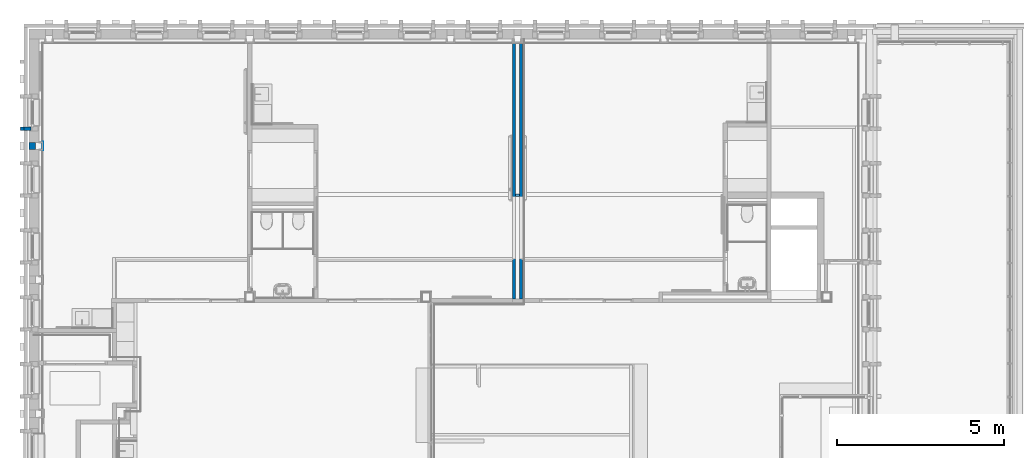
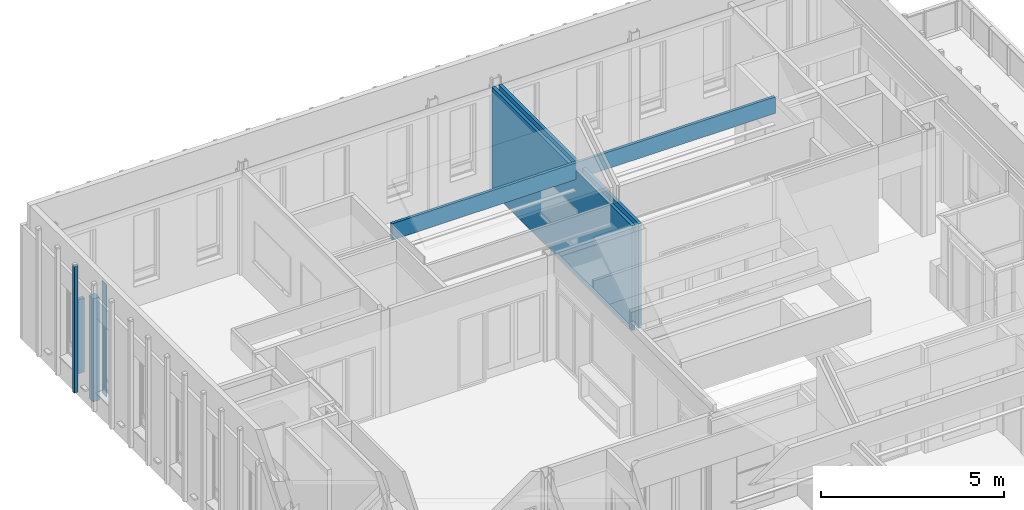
# One storey, part 54 of 118: 7 walls.
"""IFC2X3 building model written with IfcOpenShell, lengths in millimetres."""

import ifcopenshell
import ifcopenshell.guid

model = None  # the IFC model being written
_history = None  # IfcOwnerHistory: only IFC2X3 demands one
_inside = {}  # id of a spatial element -> (the spatial element, [elements in it])
_under = {}  # id of a project, library or spatial element -> (it, [spatial elements below it])
_declared = {}  # id of a project -> (the project, [libraries it declares])
_typed = {}  # id of a type object -> (the type object, [elements of that type])
_made_of = {}  # id of a material, layer set ... -> (it, [elements and type objects made of it])


def new_model(schema):
    """Start an empty IFC model of exactly this schema.

    Asked for "IFC4X3", IfcOpenShell would pick the latest addendum, in which some entities
    have other attributes; the version numbers below select the first issue.
    IFC2X3 requires an IfcOwnerHistory on every rooted entity: one is made here for all.
    """
    global model, _history
    if schema == "IFC4X3":
        model = ifcopenshell.file(schema_version=(4, 3, 0, 0))
    else:
        model = ifcopenshell.file(schema=schema)
    _inside.clear()
    _under.clear()
    _declared.clear()
    _typed.clear()
    _made_of.clear()
    _history = None
    if model.schema == "IFC2X3":
        org = make("IfcOrganization", Name="unknown")
        user = make(
            "IfcPersonAndOrganization",
            ThePerson=make("IfcPerson", FamilyName="unknown"),
            TheOrganization=org,
        )
        app = make(
            "IfcApplication",
            ApplicationDeveloper=org,
            Version="unknown",
            ApplicationFullName="unknown",
            ApplicationIdentifier="unknown",
        )
        _history = make(
            "IfcOwnerHistory",
            OwningUser=user,
            OwningApplication=app,
            ChangeAction="ADDED",
            CreationDate=0,
        )
    return model


def make(cls, **values):
    """One entity of the class cls with the attributes given. An attribute that is None is left unset."""
    return model.create_entity(
        cls, **{name: value for name, value in values.items() if value is not None}
    )


def entity(cls, *values):
    """Any entity or typed value of the class cls, its attributes in the order of the schema. None: left unset."""
    e = model.create_entity(cls)
    for i, value in enumerate(values):
        if value is not None:
            e[i] = value
    return e


def rooted(cls, **values):
    """An entity with a GlobalId (a new one), such as an element, a storey or a relation."""
    return make(cls, GlobalId=ifcopenshell.guid.new(), OwnerHistory=_history, **values)


def si_unit(unit_type, name, prefix=None):
    """IfcSIUnit, for example si_unit("LENGTHUNIT", "METRE", prefix="MILLI")."""
    return make("IfcSIUnit", UnitType=unit_type, Prefix=prefix, Name=name)


def converted_unit(unit_type, name, factor, base, dimensions=None, offset=None):
    """IfcConversionBasedUnit, such as the inch: factor (a typed value) times the base unit."""
    return make(
        "IfcConversionBasedUnit"
        if offset is None
        else "IfcConversionBasedUnitWithOffset",
        ConversionOffset=offset,
        Dimensions=None
        if dimensions is None
        else entity("IfcDimensionalExponents", *dimensions),
        UnitType=unit_type,
        Name=name,
        ConversionFactor=make(
            "IfcMeasureWithUnit", ValueComponent=factor, UnitComponent=base
        ),
    )


def derived_unit(unit_type, elements):
    """IfcDerivedUnit: a product of units, each with its exponent."""
    return make(
        "IfcDerivedUnit",
        Elements=[
            make("IfcDerivedUnitElement", Unit=unit, Exponent=power)
            for unit, power in elements
        ],
        UnitType=unit_type,
    )


def assignment(units):
    """IfcUnitAssignment: the units of a project."""
    return None if units is None else make("IfcUnitAssignment", Units=units)


def point(xyz):
    """IfcCartesianPoint."""
    return None if xyz is None else make("IfcCartesianPoint", Coordinates=xyz)


def direction(xyz):
    """IfcDirection."""
    return None if xyz is None else make("IfcDirection", DirectionRatios=xyz)


def frame(location, z_axis=None, x_axis=None):
    """IfcAxis2Placement3D, a coordinate frame: its origin and axes. An axis left out is left unset."""
    return make(
        "IfcAxis2Placement3D",
        Location=point(location),
        Axis=direction(z_axis),
        RefDirection=direction(x_axis),
    )


def frame_2d(location, x_axis=None):
    """IfcAxis2Placement2D, a coordinate frame in the plane: its origin and x axis."""
    return make(
        "IfcAxis2Placement2D", Location=point(location), RefDirection=direction(x_axis)
    )


def origin():
    """The frame at (0, 0, 0) with its axes left unset."""
    return frame((0.0, 0.0, 0.0))


def place(relative_to, where):
    """IfcLocalPlacement: puts the frame where relative to a parent placement (None: the world)."""
    return make(
        "IfcLocalPlacement", PlacementRelTo=relative_to, RelativePlacement=where
    )


def context(
    kind, dimensions, precision=None, world=None, true_north=None, identifier=None
):
    """IfcGeometricRepresentationContext, for example the 3D "Model" context."""
    return make(
        "IfcGeometricRepresentationContext",
        ContextIdentifier=identifier,
        ContextType=kind,
        CoordinateSpaceDimension=dimensions,
        Precision=precision,
        WorldCoordinateSystem=world,
        TrueNorth=true_north,
    )


def subcontext(parent, identifier, kind, view, scale=None):
    """IfcGeometricRepresentationSubContext, for example "Body" below "Model"."""
    return make(
        "IfcGeometricRepresentationSubContext",
        ContextIdentifier=identifier,
        ContextType=kind,
        ParentContext=parent,
        TargetScale=scale,
        TargetView=view,
    )


def project(units=None, contexts=None):
    """IfcProject with its units and contexts."""
    return rooted(
        "IfcProject",
        Name="project",
        RepresentationContexts=contexts,
        UnitsInContext=assignment(units),
    )


def spatial(cls, under=None, at=None, **own):
    """A site, building, storey or space (cls), placed at a placement, below another one or the project."""
    s = rooted(cls, ObjectPlacement=at, **own)
    if under is not None:
        _under.setdefault(under.id(), (under, []))[1].append(s)
    return s


def polyline(points):
    """IfcPolyline through the points."""
    return make("IfcPolyline", Points=[point(p) for p in points])


def profile(cls, at=None, kind="AREA", **sizes):
    """A parametric profile (cls). Its sizes go by their IFC names, for example OverallWidth=200.0."""
    return make(cls, ProfileType=kind, Position=at, **sizes)


def rectangle(**sizes):
    """IfcRectangleProfileDef."""
    return profile("IfcRectangleProfileDef", **sizes)


def extrude(swept, where, along, depth):
    """IfcExtrudedAreaSolid: the profile swept, set in the frame where, extruded along a direction by depth."""
    return make(
        "IfcExtrudedAreaSolid",
        SweptArea=swept,
        Position=where,
        ExtrudedDirection=direction(along),
        Depth=depth,
    )


def clip(a, b, op="DIFFERENCE"):
    """IfcBooleanClippingResult: the solid a cut by the half space b."""
    return make(
        "IfcBooleanClippingResult", Operator=op, FirstOperand=a, SecondOperand=b
    )


def bounded_halfspace(plane, agree, where, boundary):
    """IfcPolygonalBoundedHalfSpace: a half space limited to a polygon's prism."""
    return make(
        "IfcPolygonalBoundedHalfSpace",
        BaseSurface=make("IfcPlane", Position=plane),
        AgreementFlag=agree,
        Position=where,
        PolygonalBoundary=boundary,
    )


def shape(context_of_items, identifier, shape_type, items):
    """IfcShapeRepresentation: the items that make up one representation, for example the "Body"."""
    return make(
        "IfcShapeRepresentation",
        ContextOfItems=context_of_items,
        RepresentationIdentifier=identifier,
        RepresentationType=shape_type,
        Items=items,
    )


def material(Name=None, Category=None):
    """IfcMaterial."""
    return make("IfcMaterial", Name=Name, Category=Category)


def layer(
    of_material, thickness, ventilated=None, Name=None, Category=None, Priority=None
):
    """IfcMaterialLayer: one layer of a wall or slab, of a material (None: an air gap)."""
    return make(
        "IfcMaterialLayer",
        Material=of_material,
        LayerThickness=thickness,
        IsVentilated=ventilated,
        Name=Name,
        Category=Category,
        Priority=Priority,
    )


def layer_set(layers, Name=None):
    """IfcMaterialLayerSet."""
    return make("IfcMaterialLayerSet", MaterialLayers=layers, LayerSetName=Name)


def layer_usage(for_layer_set, set_direction, sense, offset, extent=None):
    """IfcMaterialLayerSetUsage: how a layer set lies in its element."""
    return make(
        "IfcMaterialLayerSetUsage",
        ForLayerSet=for_layer_set,
        LayerSetDirection=set_direction,
        DirectionSense=sense,
        OffsetFromReferenceLine=offset,
        ReferenceExtent=extent,
    )


def made_of(thing, what):
    """Note that an element or type object is made of a material, layer set ...; save() writes the relation."""
    if what is not None:
        _made_of.setdefault(what.id(), (what, []))[1].append(thing)
    return thing


def type_object(cls, material=None, **own):
    """A type object (cls), such as IfcWallType, which elements share."""
    return made_of(rooted(cls, **own), material)


def element(
    cls,
    number,
    at=None,
    inside=None,
    cuts=None,
    type_object=None,
    material=None,
    context=None,
    identifier="Body",
    shape_type=None,
    held_by="IfcProductDefinitionShape",
    body=None,
    shapes=None,
    **own,
):
    """One element of the class cls, such as IfcWall. Its Tag is "e" and its number.

    at: its placement. inside: the storey or other place that contains it. cuts: it is an
    opening in that element (IfcRelVoidsElement). A single representation is given by context,
    identifier, shape_type and body (its items); several are given by shapes. held_by: the class
    of the entity that holds the representations. save() writes the other relations.
    """
    e = rooted(cls, Tag="e%d" % number, ObjectPlacement=at, **own)
    if body is not None:
        shapes = [shape(context, identifier, shape_type, body)]
    if shapes is not None:
        e.Representation = make(held_by, Representations=shapes)
    if inside is not None:
        _inside.setdefault(inside.id(), (inside, []))[1].append(e)
    if cuts is not None:
        rooted(
            "IfcRelVoidsElement", RelatingBuildingElement=cuts, RelatedOpeningElement=e
        )
    if type_object is not None:
        _typed.setdefault(type_object.id(), (type_object, []))[1].append(e)
    return made_of(e, material)


def aggregate(whole, parts):
    """IfcRelAggregates: a whole, such as a stair, and the parts it consists of."""
    return rooted("IfcRelAggregates", RelatingObject=whole, RelatedObjects=parts)


def save(model, path):
    """Write the relations noted so far, then the file.

    IfcRelAggregates (storeys below a building ...), IfcRelContainedInSpatialStructure (elements
    in a storey), IfcRelDefinesByType, IfcRelAssociatesMaterial and IfcRelDeclares: one each for
    every whole, place, type object, material and project.
    """
    for whole, parts in _under.values():
        aggregate(whole, parts)
    for where, things in _inside.values():
        rooted(
            "IfcRelContainedInSpatialStructure",
            RelatedElements=things,
            RelatingStructure=where,
        )
    for kind, things in _typed.values():
        rooted("IfcRelDefinesByType", RelatedObjects=things, RelatingType=kind)
    for what, things in _made_of.values():
        rooted("IfcRelAssociatesMaterial", RelatedObjects=things, RelatingMaterial=what)
    for by, libraries in _declared.values():
        rooted("IfcRelDeclares", RelatingContext=by, RelatedDefinitions=libraries)
    model.write(path)


model = new_model("IFC2X3")

# Units and contexts
model_context = context("Model", 3, precision=0.01, world=origin(), true_north=direction((6.123031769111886e-17, 1.0)))
plan_context = context("Plan", 3, precision=0.01, world=origin(), true_north=direction((6.123031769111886e-17, 1.0)))
body_context = subcontext(model_context, "Body", "Model", "MODEL_VIEW")
ifc_project = project(units=[si_unit("LENGTHUNIT", "METRE", prefix="MILLI"), si_unit("AREAUNIT", "SQUARE_METRE"), si_unit("VOLUMEUNIT", "CUBIC_METRE"), converted_unit("PLANEANGLEUNIT", "DEGREE", entity("IfcRatioMeasure", 0.017453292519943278), si_unit("PLANEANGLEUNIT", "RADIAN"), dimensions=[0, 0, 0, 0, 0, 0, 0]), si_unit("MASSUNIT", "GRAM", prefix="KILO"), derived_unit("MASSDENSITYUNIT", [(si_unit("MASSUNIT", "GRAM", prefix="KILO"), 1), (si_unit("LENGTHUNIT", "METRE"), -3)]), derived_unit("IONCONCENTRATIONUNIT", [(si_unit("MASSUNIT", "GRAM", prefix="KILO"), 1), (si_unit("LENGTHUNIT", "METRE"), -3)]), derived_unit("MOMENTOFINERTIAUNIT", [(si_unit("LENGTHUNIT", "METRE"), 4)]), si_unit("TIMEUNIT", "SECOND"), si_unit("FREQUENCYUNIT", "HERTZ"), si_unit("THERMODYNAMICTEMPERATUREUNIT", "DEGREE_CELSIUS"), derived_unit("THERMALTRANSMITTANCEUNIT", [(si_unit("MASSUNIT", "GRAM", prefix="KILO"), 1), (si_unit("THERMODYNAMICTEMPERATUREUNIT", "KELVIN"), -1), (si_unit("TIMEUNIT", "SECOND"), -3)]), derived_unit("THERMALCONDUCTANCEUNIT", [(si_unit("MASSUNIT", "GRAM", prefix="KILO"), 1), (si_unit("THERMODYNAMICTEMPERATUREUNIT", "KELVIN"), -1), (si_unit("TIMEUNIT", "SECOND"), -3), (si_unit("LENGTHUNIT", "METRE"), 1)]), derived_unit("VOLUMETRICFLOWRATEUNIT", [(si_unit("LENGTHUNIT", "METRE"), 3), (si_unit("TIMEUNIT", "SECOND"), -1)]), derived_unit("MASSFLOWRATEUNIT", [(si_unit("MASSUNIT", "GRAM", prefix="KILO"), 1), (si_unit("TIMEUNIT", "SECOND"), -1)]), derived_unit("ROTATIONALFREQUENCYUNIT", [(si_unit("TIMEUNIT", "SECOND"), -1)]), si_unit("ELECTRICCURRENTUNIT", "AMPERE"), si_unit("ELECTRICVOLTAGEUNIT", "VOLT"), si_unit("POWERUNIT", "WATT"), si_unit("FORCEUNIT", "NEWTON", prefix="KILO"), si_unit("ILLUMINANCEUNIT", "LUX"), si_unit("LUMINOUSFLUXUNIT", "LUMEN"), si_unit("LUMINOUSINTENSITYUNIT", "CANDELA"), derived_unit("USERDEFINED", [(si_unit("MASSUNIT", "GRAM", prefix="KILO"), -1), (si_unit("LENGTHUNIT", "METRE"), -2), (si_unit("TIMEUNIT", "SECOND"), 3), (si_unit("LUMINOUSFLUXUNIT", "LUMEN"), 1)]), derived_unit("USERDEFINED", [(si_unit("MASSUNIT", "GRAM", prefix="KILO"), 1), (si_unit("TIMEUNIT", "SECOND"), -3), (si_unit("LENGTHUNIT", "METRE"), 3), (si_unit("ELECTRICCURRENTUNIT", "AMPERE"), -2)]), derived_unit("SOUNDPOWERUNIT", [(si_unit("MASSUNIT", "GRAM", prefix="KILO"), 1), (si_unit("TIMEUNIT", "SECOND"), -3), (si_unit("LENGTHUNIT", "METRE"), 2)]), derived_unit("SOUNDPRESSUREUNIT", [(si_unit("MASSUNIT", "GRAM", prefix="KILO"), 1), (si_unit("LENGTHUNIT", "METRE"), -1), (si_unit("TIMEUNIT", "SECOND"), -2)]), derived_unit("LINEARVELOCITYUNIT", [(si_unit("LENGTHUNIT", "METRE"), 1), (si_unit("TIMEUNIT", "SECOND"), -1)]), si_unit("PRESSUREUNIT", "PASCAL"), derived_unit("USERDEFINED", [(si_unit("MASSUNIT", "GRAM", prefix="KILO"), 1), (si_unit("LENGTHUNIT", "METRE"), -2), (si_unit("TIMEUNIT", "SECOND"), -2)]), derived_unit("LINEARFORCEUNIT", [(si_unit("MASSUNIT", "GRAM", prefix="KILO"), 1), (si_unit("TIMEUNIT", "SECOND"), -2)]), derived_unit("PLANARFORCEUNIT", [(si_unit("MASSUNIT", "GRAM", prefix="KILO"), 1), (si_unit("LENGTHUNIT", "METRE"), -1), (si_unit("TIMEUNIT", "SECOND"), -2)]), derived_unit("SPECIFICHEATCAPACITYUNIT", [(si_unit("THERMODYNAMICTEMPERATUREUNIT", "KELVIN"), -1), (si_unit("LENGTHUNIT", "METRE"), 2), (si_unit("TIMEUNIT", "SECOND"), -2)]), derived_unit("HEATINGVALUEUNIT", [(si_unit("LENGTHUNIT", "METRE"), 2), (si_unit("TIMEUNIT", "SECOND"), -2)]), derived_unit("VAPORPERMEABILITYUNIT", [(si_unit("LENGTHUNIT", "METRE"), -1), (si_unit("TIMEUNIT", "SECOND"), 1)]), derived_unit("DYNAMICVISCOSITYUNIT", [(si_unit("MASSUNIT", "GRAM", prefix="KILO"), 1), (si_unit("TIMEUNIT", "SECOND"), -1), (si_unit("LENGTHUNIT", "METRE"), -1)]), derived_unit("THERMALEXPANSIONCOEFFICIENTUNIT", [(si_unit("THERMODYNAMICTEMPERATUREUNIT", "KELVIN"), -1)]), derived_unit("MODULUSOFELASTICITYUNIT", [(si_unit("MASSUNIT", "GRAM", prefix="KILO"), 1), (si_unit("LENGTHUNIT", "METRE"), -1), (si_unit("TIMEUNIT", "SECOND"), -2)]), derived_unit("ISOTHERMALMOISTURECAPACITYUNIT", [(si_unit("LENGTHUNIT", "METRE"), 3), (si_unit("MASSUNIT", "GRAM", prefix="KILO"), -1)]), derived_unit("MOISTUREDIFFUSIVITYUNIT", [(si_unit("TIMEUNIT", "SECOND"), -1), (si_unit("LENGTHUNIT", "METRE"), 2)])], contexts=[model_context, plan_context])

# Site, building, storey
site_placement = place(None, origin())
site = spatial("IfcSite", under=ifc_project, at=site_placement, Name="Locatie", CompositionType="ELEMENT")
building_placement = place(site_placement, origin())
building = spatial("IfcBuilding", under=site, at=building_placement, Name="Bouwwerk", CompositionType="ELEMENT")
storey_placement = place(building_placement, frame((0.0, 0.0, 7800.0)))
storey = spatial("IfcBuildingStorey", under=building, at=storey_placement, Name="02 tweede verdieping", CompositionType="ELEMENT", Elevation=7800.000000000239)

# Walls
ifc_material_1 = material(Name="g2_metselwerk_geel licht")
ifc_layer_1 = layer(ifc_material_1, 100.0)
ifc_layer_set_1 = layer_set([ifc_layer_1], Name="Basic Wall:21_WA_metselwerk_licht_100_gen_bdg")
ifc_layer_usage_1 = layer_usage(ifc_layer_set_1, "AXIS2", "POSITIVE", -50.0)
wall_type_1 = type_object("IfcWallType", Name="Basic Wall:21_WA_metselwerk_licht_100_gen_bdg", PredefinedType="STANDARD", material=ifc_layer_set_1)
wall_1_placement = place(storey_placement, frame((9770.0, 31718.0, 603.0), z_axis=(0.0, 0.0, 1.0), x_axis=(-1.0, 0.0, 0.0)))
element("IfcWallStandardCase", 1, at=wall_1_placement, inside=storey, type_object=wall_type_1, material=ifc_layer_usage_1, Name="Basic Wall:21_WA_metselwerk_licht_100_gen_bdg", ObjectType="Basic Wall:21_WA_metselwerk_licht_100_gen_bdg", context=body_context, shape_type="SweptSolid", body=[
    extrude(rectangle(XDim=210.00000000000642, YDim=100.00000000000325, at=frame_2d((105.00000000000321, 1.0196288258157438e-12), x_axis=(-1.0, 0.0))), origin(), (0.0, 0.0, 1.0), 2471.999999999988),
])
wall_2_placement = place(storey_placement, frame((9560.0, 31718.0, 0.0), z_axis=(0.0, 0.0, 1.0), x_axis=(-1.0, 0.0, 0.0)))
element("IfcWallStandardCase", 2, at=wall_2_placement, inside=storey, type_object=wall_type_1, material=ifc_layer_usage_1, Name="Basic Wall:21_WA_metselwerk_licht_100_gen_bdg", ObjectType="Basic Wall:21_WA_metselwerk_licht_100_gen_bdg", context=body_context, shape_type="SweptSolid", body=[
    extrude(rectangle(XDim=114.99999999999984, YDim=100.00000000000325, at=frame_2d((57.49999999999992, 1.2434497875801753e-12), x_axis=(-1.0, 0.0))), origin(), (0.0, 0.0, 1.0), 4231.99999999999),
])
ifc_material_2 = material(Name="f7_gipsvezel")
ifc_layer_2 = layer(ifc_material_2, 12.5)
ifc_material_3 = material(Name="f7_gips")
ifc_layer_3 = layer(ifc_material_3, 12.5)
ifc_material_4 = material(Name="n7_isolatie_glaswol")
ifc_layer_4 = layer(ifc_material_4, 75.0)
ifc_layer_set_2 = layer_set([ifc_layer_2, ifc_layer_3, ifc_layer_4], Name="Basic Wall:22_WA_voorzetwand_ms100 25-75 _gen_bdg")
ifc_layer_usage_2 = layer_usage(ifc_layer_set_2, "AXIS2", "NEGATIVE", 50.0)
wall_type_2 = type_object("IfcWallType", Name="Basic Wall:22_WA_voorzetwand_ms100 25-75 _gen_bdg", PredefinedType="STANDARD", material=ifc_layer_set_2)
wall_3_placement = place(storey_placement, frame((24195.0, 26625.0, 0.0), z_axis=(0.0, 0.0, 1.0), x_axis=(0.0, 1.0, 0.0)))
element("IfcWallStandardCase", 3, at=wall_3_placement, inside=storey, type_object=wall_type_2, material=ifc_layer_usage_2, Name="Basic Wall:22_WA_voorzetwand_ms100 25-75 _gen_bdg", ObjectType="Basic Wall:22_WA_voorzetwand_ms100 25-75 _gen_bdg", context=body_context, shape_type="SweptSolid", body=[
    extrude(rectangle(XDim=7659.999999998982, YDim=100.00000000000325, at=frame_2d((3829.999999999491, -1.0658141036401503e-13), x_axis=(-1.0, 0.0))), origin(), (0.0, 0.0, 1.0), 3500.0000000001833),
])
ifc_layer_usage_3 = layer_usage(ifc_layer_set_2, "AXIS2", "POSITIVE", -50.0)
wall_4_placement = place(storey_placement, frame((24405.0, 26625.0, 0.0), z_axis=(0.0, 0.0, 1.0), x_axis=(0.0, 1.0, 0.0)))
element("IfcWallStandardCase", 4, at=wall_4_placement, inside=storey, type_object=wall_type_2, material=ifc_layer_usage_3, Name="Basic Wall:22_WA_voorzetwand_ms100 25-75 _gen_bdg", ObjectType="Basic Wall:22_WA_voorzetwand_ms100 25-75 _gen_bdg", context=body_context, shape_type="SweptSolid", body=[
    extrude(rectangle(XDim=7659.999999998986, YDim=100.00000000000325, at=frame_2d((3829.999999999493, 1.0658141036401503e-13), x_axis=(-1.0, 0.0))), origin(), (0.0, 0.0, 1.0), 3500.0000000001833),
])
ifc_layer_5 = layer(ifc_material_2, 13.000000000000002)
ifc_layer_set_3 = layer_set([ifc_layer_5], Name="Basic Wall:NLRS_41_WA_gips 13_gen_ISR")
ifc_layer_usage_4 = layer_usage(ifc_layer_set_3, "AXIS2", "NEGATIVE", 6.500000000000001)
wall_type_3 = type_object("IfcWallType", Name="Basic Wall:NLRS_41_WA_gips 13_gen_ISR", PredefinedType="STANDARD", material=ifc_layer_set_3)
wall_5_placement = place(storey_placement, frame((10121.500000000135, 31328.0, 0.0), z_axis=(0.0, 0.0, 1.0), x_axis=(0.0, -1.0, 0.0)))
element("IfcWallStandardCase", 5, at=wall_5_placement, inside=storey, type_object=wall_type_3, material=ifc_layer_usage_4, Name="Basic Wall:NLRS_41_WA_gips 13_gen_ISR", ObjectType="Basic Wall:NLRS_41_WA_gips 13_gen_ISR", context=body_context, shape_type="SweptSolid", body=[
    extrude(rectangle(XDim=255.9999999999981, YDim=13.000000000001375, at=frame_2d((127.99999999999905, -4.871658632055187e-13), x_axis=(-1.0, 0.0))), origin(), (0.0, 0.0, 1.0), 3750.000000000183),
])
ifc_layer_6 = layer(ifc_material_2, 13.000000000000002)
ifc_material_5 = material(Name="ISR_Luchtspouw")
ifc_layer_7 = layer(ifc_material_5, 71.0)
ifc_layer_set_4 = layer_set([ifc_layer_6, ifc_layer_7], Name="Basic Wall:22_WA_koof_83 12-71")
ifc_layer_usage_5 = layer_usage(ifc_layer_set_4, "AXIS2", "NEGATIVE", 41.99999999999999)
wall_type_4 = type_object("IfcWallType", Name="Basic Wall:22_WA_koof_83 12-71", PredefinedType="STANDARD", material=ifc_layer_set_4)
wall_6_placement = place(storey_placement, frame((30445.0, 29729.0, 3200.0), z_axis=(0.0, 0.0, 1.0), x_axis=(-1.0, 0.0, 0.0)))
element("IfcWallStandardCase", 6, at=wall_6_placement, inside=storey, type_object=wall_type_4, material=ifc_layer_usage_5, Name="Basic Wall:22_WA_koof_83 12-71", ObjectType="Basic Wall:22_WA_koof_83 12-71", context=body_context, shape_type="Clipping", body=[
    clip(clip(extrude(rectangle(XDim=12107.499992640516, YDim=83.99999999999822, at=frame_2d((6053.749996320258, 1.5631940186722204e-13), x_axis=(-1.0, 0.0))), origin(), (0.0, 0.0, 1.0), 550.0000000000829), bounded_halfspace(frame((6200.0, -42.0, 300.0)), True, frame((6200.0, -42.0, 300.0)), polyline([(0.0, 0.0), (100.0, 0.0), (100.0, 84.0), (0.0, 84.0), (0.0, 0.0)]))), bounded_halfspace(frame((5990.0, -42.0, 300.0)), True, frame((5990.0, -42.0, 300.0)), polyline([(0.0, 0.0), (100.0, 0.0), (100.0, 84.0), (0.0, 84.0), (0.0, 0.0)]))),
])
ifc_material_6 = material(Name="n7_isolatie_Resol")
ifc_layer_8 = layer(ifc_material_6, 200.0)
ifc_layer_set_5 = layer_set([ifc_layer_8], Name="Basic Wall:NLRS_22_WA_HSB bispouw 200_gen_ISR")
ifc_layer_usage_6 = layer_usage(ifc_layer_set_5, "AXIS2", "NEGATIVE", 100.0)
wall_type_5 = type_object("IfcWallType", Name="Basic Wall:NLRS_22_WA_HSB bispouw 200_gen_ISR", PredefinedType="STANDARD", material=ifc_layer_set_5)
wall_7_placement = place(storey_placement, frame((9800.0, 31090.0, -30.0), z_axis=(0.0, 0.0, 1.0), x_axis=(0.0, 1.0, 0.0)))
element("IfcWallStandardCase", 7, at=wall_7_placement, inside=storey, type_object=wall_type_5, material=ifc_layer_usage_6, Name="Basic Wall:NLRS_22_WA_HSB bispouw 200_gen_ISR", ObjectType="Basic Wall:NLRS_22_WA_HSB bispouw 200_gen_ISR", context=body_context, shape_type="SweptSolid", body=[
    extrude(rectangle(XDim=220.00000000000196, YDim=199.99999999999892, at=frame_2d((110.00000000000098, -1.0658141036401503e-13), x_axis=(-1.0, 0.0))), origin(), (0.0, 0.0, 1.0), 3440.0000000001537),
])

save(model, "model.ifc")
